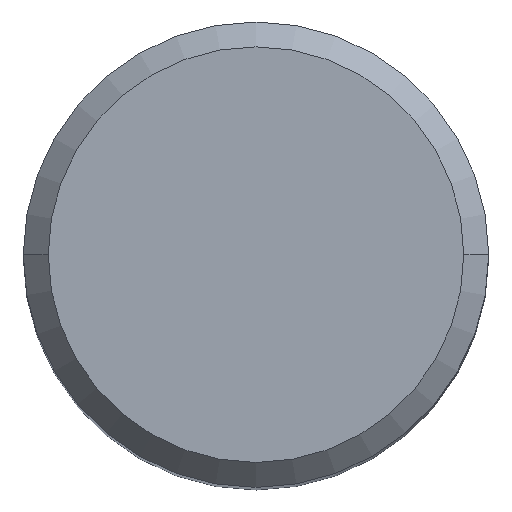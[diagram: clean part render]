
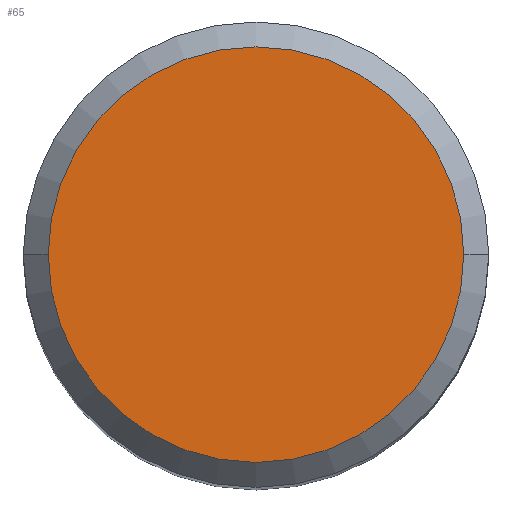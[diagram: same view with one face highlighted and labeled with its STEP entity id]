
A CAD part, top view. The second image highlights one B-rep face of the part: STEP entity #65.
In plain terms, the highlighted planar face has unit normal (0, 0, 1).
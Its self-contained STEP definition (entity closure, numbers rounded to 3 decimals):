
#65=ADVANCED_FACE('',(#125),#126,.T.);
#125=FACE_OUTER_BOUND('',#176,.T.);
#126=PLANE('',#177);
#176=EDGE_LOOP('',(#283,#284));
#177=AXIS2_PLACEMENT_3D('',#285,#286,#287);
#283=ORIENTED_EDGE('',*,*,#319,.T.);
#284=ORIENTED_EDGE('',*,*,#309,.T.);
#285=CARTESIAN_POINT('',(0.0,0.0,0.0));
#286=DIRECTION('',(0.0,0.0,1.0));
#287=DIRECTION('',(1.0,0.0,0.0));
#309=EDGE_CURVE('',#364,#362,#365,.T.);
#319=EDGE_CURVE('',#362,#364,#375,.T.);
#362=VERTEX_POINT('',#426);
#364=VERTEX_POINT('',#429);
#365=CIRCLE('',#430,6.25);
#375=CIRCLE('',#443,6.25);
#426=CARTESIAN_POINT('',(-6.25,0.0,0.0));
#429=CARTESIAN_POINT('',(6.25,0.,0.0));
#430=AXIS2_PLACEMENT_3D('',#481,#482,#483);
#443=AXIS2_PLACEMENT_3D('',#496,#497,#498);
#481=CARTESIAN_POINT('',(0.0,0.0,0.0));
#482=DIRECTION('',(0.0,0.0,1.0));
#483=DIRECTION('',(-1.0,0.0,0.0));
#496=CARTESIAN_POINT('',(0.0,0.0,0.0));
#497=DIRECTION('',(0.0,0.0,1.0));
#498=DIRECTION('',(-1.0,0.0,0.0));
